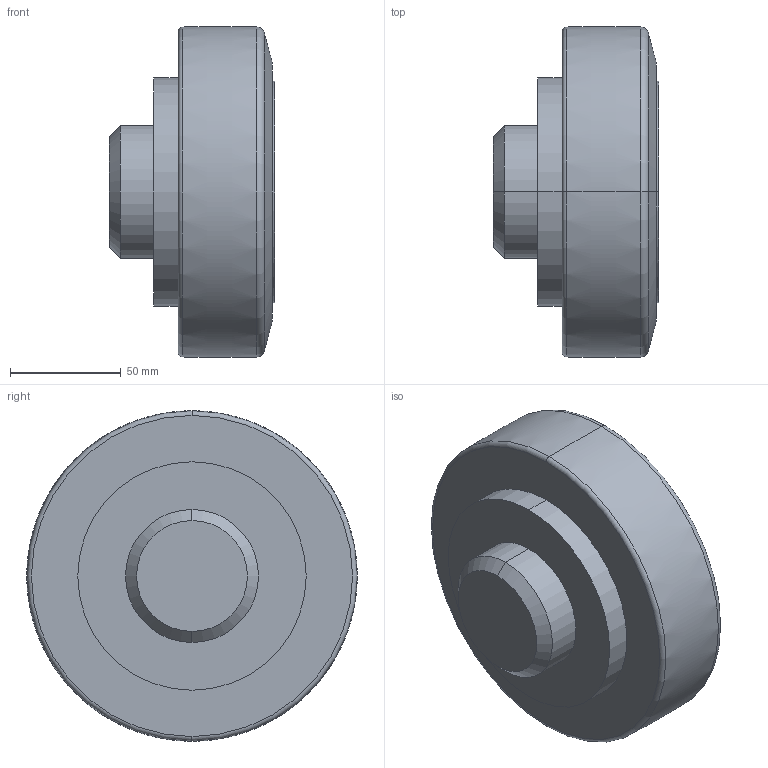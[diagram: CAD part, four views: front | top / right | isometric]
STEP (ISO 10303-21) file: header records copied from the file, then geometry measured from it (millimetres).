
FILE_DESCRIPTION (( 'STEP AP214' ), '1' );
FILE_NAME ('3D2.1643.STEP', '2013-12-17T05:19:55', ( 'usuario' ), ( 'Hewlett-Packard Company' ), 'SwSTEP 2.0', 'SolidWorks 2017', '' );
FILE_SCHEMA (( 'AUTOMOTIVE_DESIGN' ));
Length unit declared in the file: millimetre
Products named in the file (1): 3D2.1643
Bounding box: 74.5 x 148.98 x 148.98 mm (x, y, z)
Volume: 877346.8 mm3; surface area: 59135.3 mm2
Topology: 1 solids, 1 shells, 21 faces, 40 edges, 24 vertices
Faces by surface type: torus 6, cylinder 6, plane 5, cone 4
Entity records: 574 total; most frequent: DIRECTION 114, CARTESIAN_POINT 86, ORIENTED_EDGE 80, AXIS2_PLACEMENT_3D 52, EDGE_CURVE 40, CIRCLE 30, VERTEX_POINT 24, EDGE_LOOP 24
